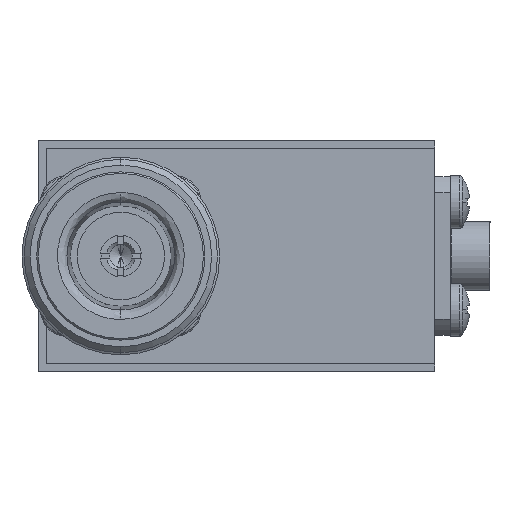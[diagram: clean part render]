
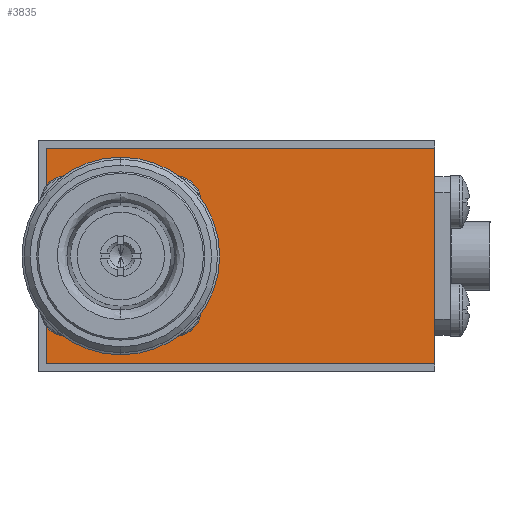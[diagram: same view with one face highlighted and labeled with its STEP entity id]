
A CAD part, left-side view. The second image highlights one B-rep face of the part: STEP entity #3835.
In plain terms, the highlighted planar face has unit normal (-1, 0, 0) as drawn and (1, 0, 0) by its records, which use the part's own axes.
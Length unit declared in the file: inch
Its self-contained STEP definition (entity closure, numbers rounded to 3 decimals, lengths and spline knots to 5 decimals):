
#54 = VECTOR ( 'NONE', #4959, 39.37008 ) ;
#125 = EDGE_LOOP ( 'NONE', ( #2035, #4188, #5149, #1455 ) ) ;
#134 = VERTEX_POINT ( 'NONE', #4824 ) ;
#439 = VERTEX_POINT ( 'NONE', #533 ) ;
#533 = CARTESIAN_POINT ( 'NONE',  ( 0.79, -0.48031, -0.34 ) ) ;
#766 = AXIS2_PLACEMENT_3D ( 'NONE', #4350, #1233, #4808 ) ;
#784 = FACE_OUTER_BOUND ( 'NONE', #125, .T. ) ;
#985 = DIRECTION ( 'NONE',  ( 0., 1., 0. ) ) ;
#1084 = LINE ( 'NONE', #1365, #54 ) ;
#1140 = DIRECTION ( 'NONE',  ( 0., 0., -1. ) ) ;
#1216 = DIRECTION ( 'NONE',  ( 0., 0., -1. ) ) ;
#1233 = DIRECTION ( 'NONE',  ( -1., 0., 0. ) ) ;
#1365 = CARTESIAN_POINT ( 'NONE',  ( 0.79, 0.74469, -0.34 ) ) ;
#1455 = ORIENTED_EDGE ( 'NONE', *, *, #2989, .T. ) ;
#1487 = LINE ( 'NONE', #6211, #5420 ) ;
#1879 = VERTEX_POINT ( 'NONE', #2940 ) ;
#2006 = CARTESIAN_POINT ( 'NONE',  ( 0.79, 0.74469, 0.34 ) ) ;
#2035 = ORIENTED_EDGE ( 'NONE', *, *, #3963, .T. ) ;
#2230 = CARTESIAN_POINT ( 'NONE',  ( 0.79, -0.48031, 0.34 ) ) ;
#2378 = LINE ( 'NONE', #2230, #4465 ) ;
#2715 = EDGE_CURVE ( 'NONE', #1879, #134, #6229, .T. ) ;
#2940 = CARTESIAN_POINT ( 'NONE',  ( 0.79, -0.48031, 0.34 ) ) ;
#2989 = EDGE_CURVE ( 'NONE', #1879, #439, #2378, .T. ) ;
#3103 = VERTEX_POINT ( 'NONE', #6417 ) ;
#3835 = ADVANCED_FACE ( 'NONE', ( #784 ), #3874, .F. ) ;
#3874 = PLANE ( 'NONE',  #766 ) ;
#3963 = EDGE_CURVE ( 'NONE', #439, #3103, #1084, .T. ) ;
#3973 = VECTOR ( 'NONE', #985, 39.37008 ) ;
#4188 = ORIENTED_EDGE ( 'NONE', *, *, #6340, .F. ) ;
#4350 = CARTESIAN_POINT ( 'NONE',  ( 0.79, 0.74469, 0.34 ) ) ;
#4465 = VECTOR ( 'NONE', #1216, 39.37008 ) ;
#4808 = DIRECTION ( 'NONE',  ( 0., -1., 0. ) ) ;
#4824 = CARTESIAN_POINT ( 'NONE',  ( 0.79, 0.74469, 0.34 ) ) ;
#4959 = DIRECTION ( 'NONE',  ( 0., 1., 0. ) ) ;
#5149 = ORIENTED_EDGE ( 'NONE', *, *, #2715, .F. ) ;
#5420 = VECTOR ( 'NONE', #1140, 39.37008 ) ;
#6211 = CARTESIAN_POINT ( 'NONE',  ( 0.79, 0.74469, 0.34 ) ) ;
#6229 = LINE ( 'NONE', #2006, #3973 ) ;
#6340 = EDGE_CURVE ( 'NONE', #134, #3103, #1487, .T. ) ;
#6417 = CARTESIAN_POINT ( 'NONE',  ( 0.79, 0.74469, -0.34 ) ) ;
